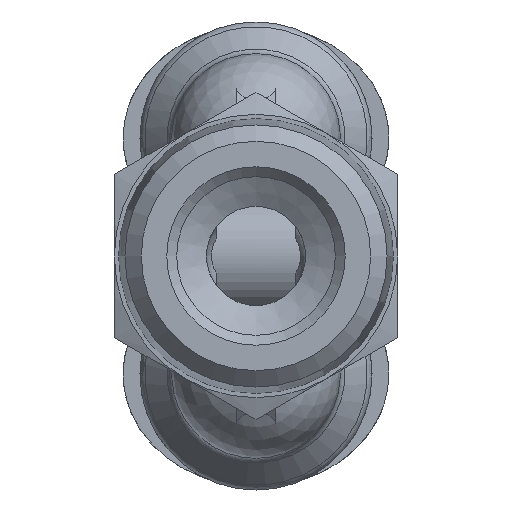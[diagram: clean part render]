
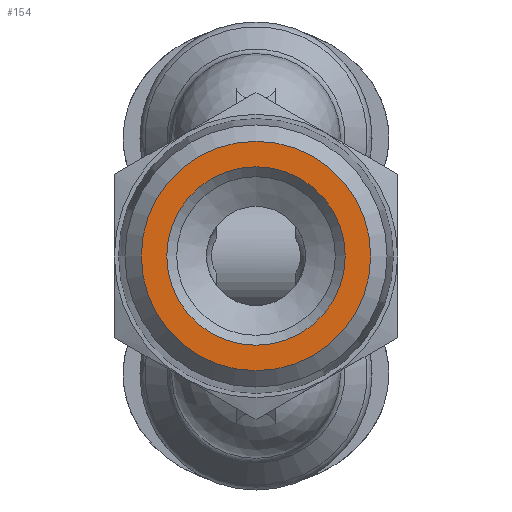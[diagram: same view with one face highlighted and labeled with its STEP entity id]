
A CAD part, front view. The second image highlights one B-rep face of the part: STEP entity #154.
In plain terms, the highlighted planar face has unit normal (0, -1, 0).
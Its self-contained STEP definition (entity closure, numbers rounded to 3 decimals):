
#123=CARTESIAN_POINT('',(0.,0.,4.5));
#124=VERTEX_POINT('',#123);
#125=CARTESIAN_POINT('',(0.0,0.,0.));
#126=DIRECTION('',(0.0,-1.0,0.0));
#127=DIRECTION('',(0.0,0.0,-1.0));
#128=AXIS2_PLACEMENT_3D('',#125,#126,#127);
#129=CIRCLE('',#128,4.5);
#130=EDGE_CURVE('',#124,#124,#129,.T.);
#135=CARTESIAN_POINT('',(3.293,0.,0.0));
#136=DIRECTION('',(0.0,-1.0,0.0));
#137=DIRECTION('',(0.0,0.0,-1.0));
#138=AXIS2_PLACEMENT_3D('',#135,#136,#137);
#139=PLANE('',#138);
#140=CARTESIAN_POINT('',(5.785,0.,0.));
#141=VERTEX_POINT('',#140);
#142=CARTESIAN_POINT('',(0.0,0.,0.0));
#143=DIRECTION('',(0.0,1.0,0.0));
#144=DIRECTION('',(-1.0,0.0,0.0));
#145=AXIS2_PLACEMENT_3D('',#142,#143,#144);
#146=CIRCLE('',#145,5.785);
#147=EDGE_CURVE('',#141,#141,#146,.T.);
#148=ORIENTED_EDGE('',*,*,#147,.F.);
#149=EDGE_LOOP('',(#148));
#150=FACE_OUTER_BOUND('',#149,.T.);
#151=ORIENTED_EDGE('',*,*,#130,.F.);
#152=EDGE_LOOP('',(#151));
#153=FACE_BOUND('',#152,.T.);
#154=ADVANCED_FACE('',(#150,#153),#139,.T.);
